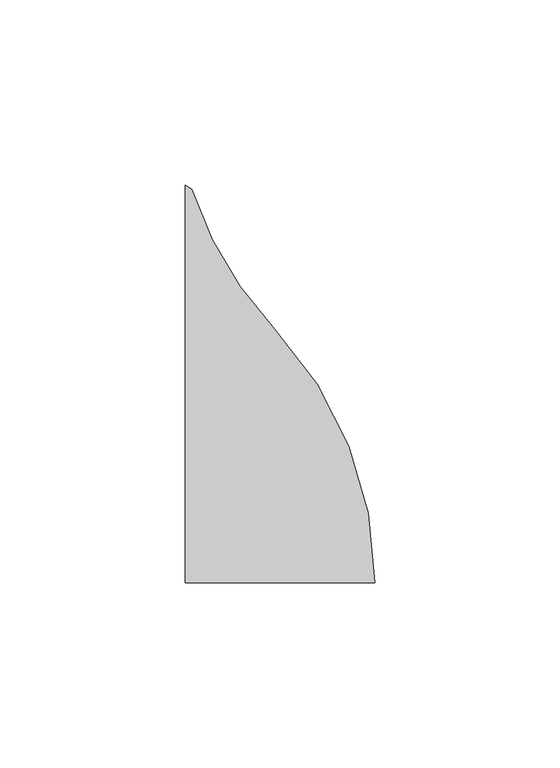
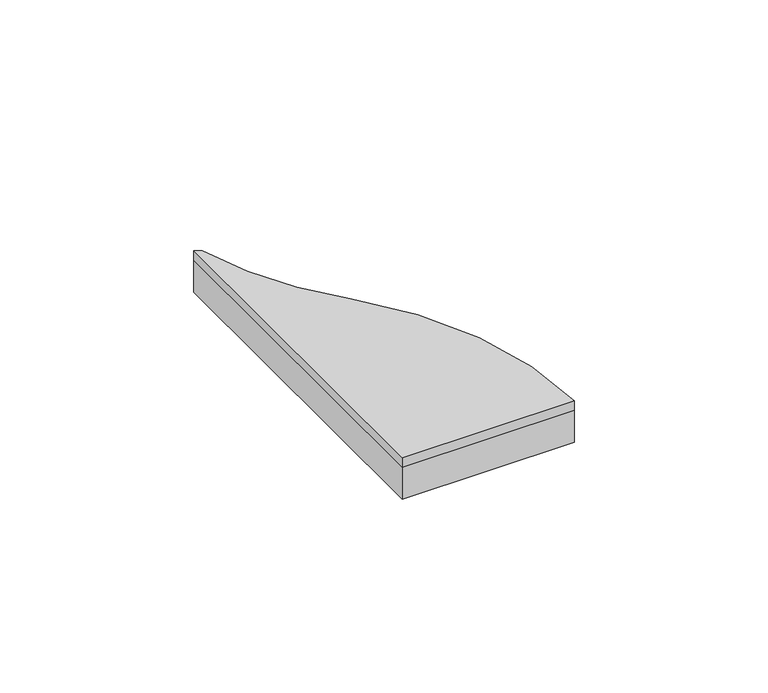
"""IFC4 building model written with IfcOpenShell, lengths in millimetres: proxy geometry, FilzFelt_Fish_Block : Fish Block."""

from ifc_helpers import new_model, si_unit, point, frame, frame_2d, origin, origin_with_axes, place, context, project, spatial, polyline, circle_curve, trimmed, segment, composite_curve, outline, extrude, source, transform, mapped, element, save


def specialty_equipment_dfb3e7c8(model_context):
    return source(origin(), model_context, "Body", "SweptSolid", [
        extrude(outline(composite_curve([segment(trimmed(circle_curve(frame_2d((126.6124317, 137.2240266)), 100.2293629), [point((31.2619065, 106.3338576))], [point((53.5486457, 68.6120133))], True, "CARTESIAN"), True, "CONTINUOUS"), segment(trimmed(circle_curve(frame_2d((-19.5151403, 0.0)), 100.2293629), [point((53.5486457, 68.6120133))], [point((80.7142226, 0.0))], False, "CARTESIAN"), True, "CONTINUOUS"), segment(polyline([(80.7142226, 0.0), (29.4379865, 0.0), (29.4379865, 107.4970534)]), True, "CONTINUOUS"), segment(trimmed(circle_curve(frame_2d((57.9263497, 150.1559416)), 51.2968574), [point((29.4379865, 107.4970534))], [point((31.2619065, 106.3338576))], True, "CARTESIAN"), True, "CONTINUOUS")], self_intersect=False)), frame((0.0, 0.0, 10.0210937), z_axis=(0.0, 0.0, 1.0), x_axis=(1.0, 0.0, 0.0)), (0.0, 0.0, 1.0), 2.9765625),
        extrude(outline(composite_curve([segment(trimmed(circle_curve(frame_2d((126.6124317, 137.2240266)), 100.2293629), [point((31.2619065, 106.3338576))], [point((53.5486457, 68.6120133))], True, "CARTESIAN"), True, "CONTINUOUS"), segment(trimmed(circle_curve(frame_2d((-19.5151403, 0.0)), 100.2293629), [point((53.5486457, 68.6120133))], [point((80.7142226, 0.0))], False, "CARTESIAN"), True, "CONTINUOUS"), segment(polyline([(80.7142226, 0.0), (29.4379865, 0.0), (29.4379865, 107.4970534)]), True, "CONTINUOUS"), segment(trimmed(circle_curve(frame_2d((57.9263497, 150.1559416)), 51.2968574), [point((29.4379865, 107.4970534))], [point((31.2619065, 106.3338576))], True, "CARTESIAN"), True, "CONTINUOUS")], self_intersect=False)), origin_with_axes(), (0.0, 0.0, 1.0), 10.0210938),
    ])


if __name__ == "__main__":
    model = new_model("IFC4")
    model_context = context("Model", 3, world=origin())
    ifc_project = project(units=[si_unit("LENGTHUNIT", "METRE", prefix="MILLI")], contexts=[model_context])
    site = spatial("IfcSite", under=ifc_project)
    building = spatial("IfcBuilding", under=site)
    placement = place(None, origin())
    specialty_equipment_shape = specialty_equipment_dfb3e7c8(model_context)
    element("IfcBuildingElementProxy", 1, Name="FilzFelt_Fish_Block : Fish Block", ObjectType="FilzFelt_Fish_Block : Fish Block", at=placement, inside=building, context=model_context, shape_type="MappedRepresentation", body=[
        mapped(specialty_equipment_shape, transform((0.0, 0.0, 0.0), x_axis=(1.0, 0.0, 0.0), y_axis=(0.0, 1.0, 0.0), z_axis=(0.0, 0.0, 1.0))),
    ])
    save(model, "model.ifc")
